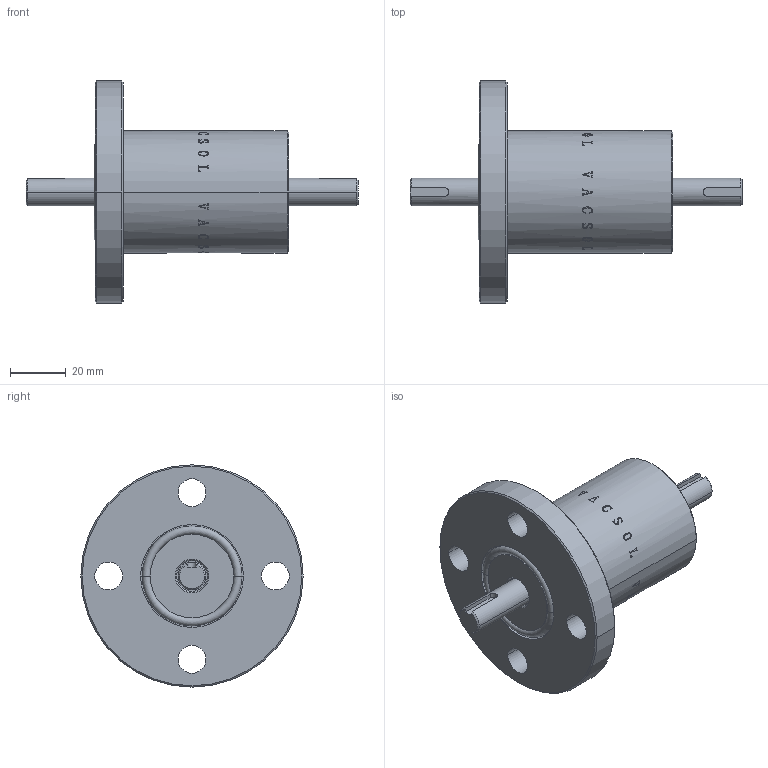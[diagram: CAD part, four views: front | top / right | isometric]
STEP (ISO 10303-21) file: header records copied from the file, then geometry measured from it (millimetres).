
FILE_DESCRIPTION (( 'STEP AP214' ), '1' );
FILE_NAME ('m10.STEP', '2010-08-26T11:44:00', ( 'user' ), ( '' ), 'SwSTEP 2.0', 'SolidWorks 2007', '' );
FILE_SCHEMA (( 'AUTOMOTIVE_DESIGN' ));
Length unit declared in the file: millimetre
Products named in the file (1): m10
Bounding box: 119.5 x 80 x 80 mm (x, y, z)
Volume: 141045.4 mm3; surface area: 24562.5 mm2
Topology: 2 solids, 2 shells, 386 faces, 1041 edges, 688 vertices
Faces by surface type: bspline 255, plane 60, cylinder 51, cone 16, torus 4
Entity records: 38885 total; most frequent: CARTESIAN_POINT 27682, ORIENTED_EDGE 2082, EDGE_CURVE 1041, B_SPLINE_CURVE_WITH_KNOTS 808, VERTEX_POINT 688, DIRECTION 628, EDGE_LOOP 425, ADVANCED_FACE 386
